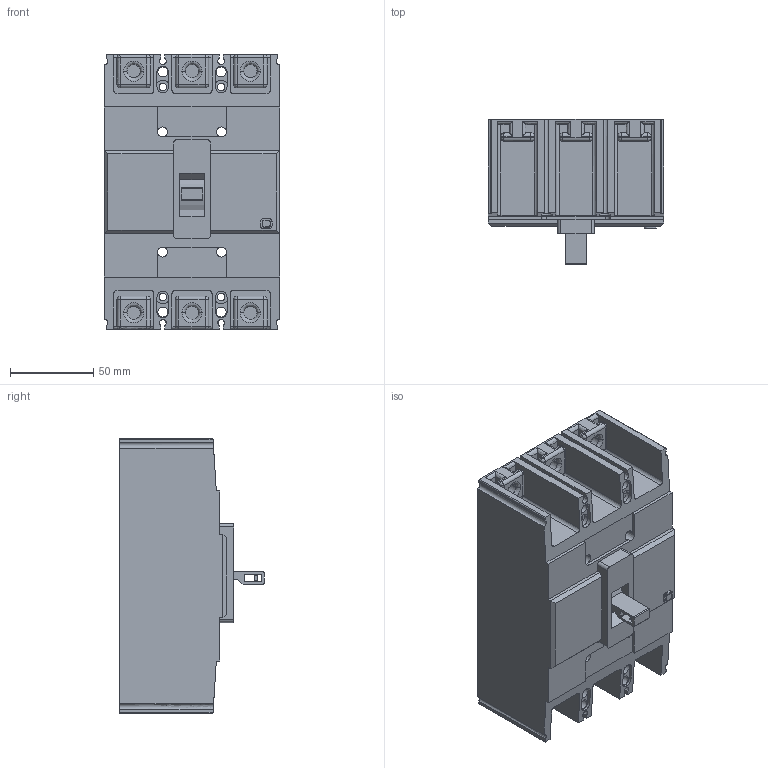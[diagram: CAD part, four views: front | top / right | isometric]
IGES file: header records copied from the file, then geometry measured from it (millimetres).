
Start section:  PTC IGES file: 21-metasol-mccb-250af-3p.igs
Global section: file name: 21-metasol-mccb-250af-3p.igs; native system: Pro/ENGINEER by Parametric Technology Corporation; preprocessor: 2010280; author: mgkimb; organization: Unknown; date: 20131029.143508; units: millimetre
Bounding box: 105 x 86.85 x 165 mm (x, y, z)
Surface area: 105861.5 mm2 (no closed solid volume)
Topology: 0 solids, 0 shells, 461 faces, 2280 edges, 2280 vertices
Faces by surface type: revolution 271, bspline 190
